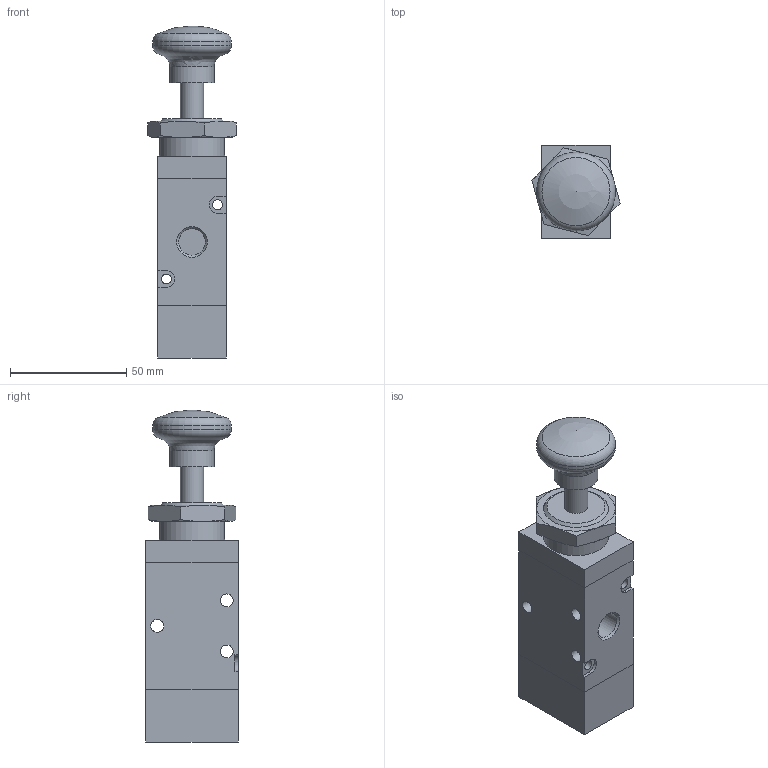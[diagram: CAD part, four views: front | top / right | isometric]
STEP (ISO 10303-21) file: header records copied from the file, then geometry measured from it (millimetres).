
FILE_DESCRIPTION((''),'2;1');
FILE_NAME('I:\Area Tecnica\Disegni\VARIE-3D\Componenti\T200\T224\T224_32_8.stp','2009-07-01T08:26:44',('rivolro1'),(''),'Autodesk Inventor 2010','Autodesk Inventor 2010','');
FILE_SCHEMA(('AUTOMOTIVE_DESIGN { 1 0 10303 214 1 1 1 1 }'));
Length unit declared in the file: millimetre
Products named in the file (3): T224_32_8; RS-214-11
Assembly tree (2 placements, depth 2):
  T224_32_8
    T224_32_8
    RS-214-11
Bounding box: 38.02 x 40 x 143 mm (x, y, z)
Volume: 123154.9 mm3; surface area: 30947.2 mm2
Topology: 7 solids, 7 shells, 68 faces, 145 edges, 93 vertices
Faces by surface type: plane 37, cylinder 12, bspline 10, cone 6, torus 2, sphere 1
Full cylindrical faces by diameter (mm): 4.25 x2, 5.5 x3, 10 x1, 19 x1, 26.6 x1, 28 x1, 34 x1
Entity records: 1934 total; most frequent: CARTESIAN_POINT 456, DIRECTION 270, ORIENTED_EDGE 230, EDGE_CURVE 115, EDGE_LOOP 108, AXIS2_PLACEMENT_3D 104, VERTEX_POINT 89, FACE_OUTER_BOUND 68
